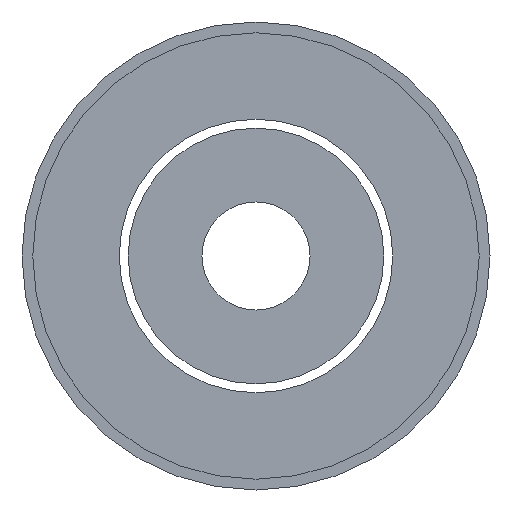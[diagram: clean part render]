
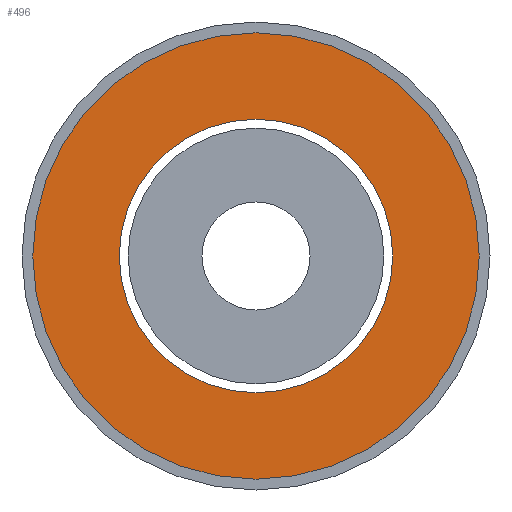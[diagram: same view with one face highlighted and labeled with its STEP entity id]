
A CAD part, front view. The second image highlights one B-rep face of the part: STEP entity #496.
In plain terms, the highlighted planar face has unit normal (0, -1, 0).
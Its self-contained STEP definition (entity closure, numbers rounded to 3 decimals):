
#41 = DIRECTION ( 'NONE',  ( 0., 0., -1. ) ) ;
#83 = DIRECTION ( 'NONE',  ( 0., -1., 0. ) ) ;
#92 = ORIENTED_EDGE ( 'NONE', *, *, #857, .T. ) ;
#180 = CARTESIAN_POINT ( 'NONE',  ( 0., -1.5, 3.8 ) ) ;
#201 = AXIS2_PLACEMENT_3D ( 'NONE', #939, #470, #295 ) ;
#211 = DIRECTION ( 'NONE',  ( 0., -1., 0. ) ) ;
#230 = VERTEX_POINT ( 'NONE', #536 ) ;
#265 = CARTESIAN_POINT ( 'NONE',  ( 0., -1.5, 0. ) ) ;
#295 = DIRECTION ( 'NONE',  ( 0., 0., -1. ) ) ;
#298 = DIRECTION ( 'NONE',  ( 0., 0., -1. ) ) ;
#327 = EDGE_LOOP ( 'NONE', ( #334, #431 ) ) ;
#334 = ORIENTED_EDGE ( 'NONE', *, *, #899, .F. ) ;
#335 = CARTESIAN_POINT ( 'NONE',  ( 0., -1.5, 6.2 ) ) ;
#351 = AXIS2_PLACEMENT_3D ( 'NONE', #265, #83, #425 ) ;
#354 = CARTESIAN_POINT ( 'NONE',  ( 0., -1.5, -3.8 ) ) ;
#355 = FACE_OUTER_BOUND ( 'NONE', #604, .T. ) ;
#369 = CARTESIAN_POINT ( 'NONE',  ( 0., -1.5, 0. ) ) ;
#420 = AXIS2_PLACEMENT_3D ( 'NONE', #369, #211, #298 ) ;
#425 = DIRECTION ( 'NONE',  ( 0., 0., -1. ) ) ;
#431 = ORIENTED_EDGE ( 'NONE', *, *, #635, .F. ) ;
#458 = CARTESIAN_POINT ( 'NONE',  ( 0., -1.5, 0. ) ) ;
#470 = DIRECTION ( 'NONE',  ( 0., -1., 0. ) ) ;
#496 = ADVANCED_FACE ( 'NONE', ( #355, #738 ), #606, .T. ) ;
#526 = CARTESIAN_POINT ( 'NONE',  ( 0., -1.5, 0. ) ) ;
#536 = CARTESIAN_POINT ( 'NONE',  ( 0., -1.5, -6.2 ) ) ;
#582 = CIRCLE ( 'NONE', #1005, 3.8 ) ;
#588 = DIRECTION ( 'NONE',  ( 0., -1., 0. ) ) ;
#604 = EDGE_LOOP ( 'NONE', ( #92, #739 ) ) ;
#606 = PLANE ( 'NONE',  #723 ) ;
#635 = EDGE_CURVE ( 'NONE', #800, #935, #641, .T. ) ;
#641 = CIRCLE ( 'NONE', #201, 3.8 ) ;
#670 = DIRECTION ( 'NONE',  ( 0., -1., 0. ) ) ;
#716 = VERTEX_POINT ( 'NONE', #335 ) ;
#723 = AXIS2_PLACEMENT_3D ( 'NONE', #526, #670, #41 ) ;
#738 = FACE_BOUND ( 'NONE', #327, .T. ) ;
#739 = ORIENTED_EDGE ( 'NONE', *, *, #748, .T. ) ;
#748 = EDGE_CURVE ( 'NONE', #230, #716, #936, .T. ) ;
#800 = VERTEX_POINT ( 'NONE', #180 ) ;
#857 = EDGE_CURVE ( 'NONE', #716, #230, #858, .T. ) ;
#858 = CIRCLE ( 'NONE', #420, 6.2 ) ;
#899 = EDGE_CURVE ( 'NONE', #935, #800, #582, .T. ) ;
#918 = DIRECTION ( 'NONE',  ( 0., 0., -1. ) ) ;
#935 = VERTEX_POINT ( 'NONE', #354 ) ;
#936 = CIRCLE ( 'NONE', #351, 6.2 ) ;
#939 = CARTESIAN_POINT ( 'NONE',  ( 0., -1.5, 0. ) ) ;
#1005 = AXIS2_PLACEMENT_3D ( 'NONE', #458, #588, #918 ) ;
